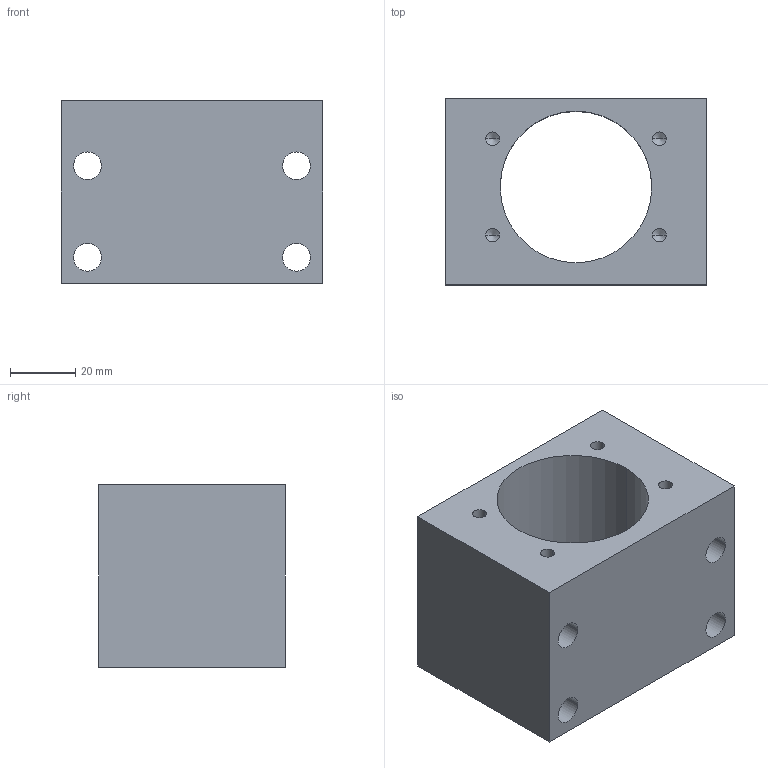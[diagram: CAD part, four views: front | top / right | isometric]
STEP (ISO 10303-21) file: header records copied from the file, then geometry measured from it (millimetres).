
FILE_DESCRIPTION((''),'2;1');
FILE_NAME('NH20D','2020-03-31T',('Administrator'),(''),'PRO/ENGINEER BY PARAMETRIC TECHNOLOGY CORPORATION, 2010280','PRO/ENGINEER BY PARAMETRIC TECHNOLOGY CORPORATION, 2010280','');
FILE_SCHEMA(('CONFIG_CONTROL_DESIGN'));
Length unit declared in the file: millimetre
Products named in the file (1): NH20D
Bounding box: 80 x 57 x 56 mm (x, y, z)
Volume: 145075.7 mm3; surface area: 35889 mm2
Topology: 1 solids, 1 shells, 44 faces, 122 edges, 80 vertices
Faces by surface type: cylinder 26, plane 10, cone 8
Entity records: 1452 total; most frequent: DIRECTION 262, CARTESIAN_POINT 238, ORIENTED_EDGE 228, EDGE_CURVE 114, AXIS2_PLACEMENT_3D 104, VERTEX_POINT 80, EDGE_LOOP 62, CIRCLE 60
